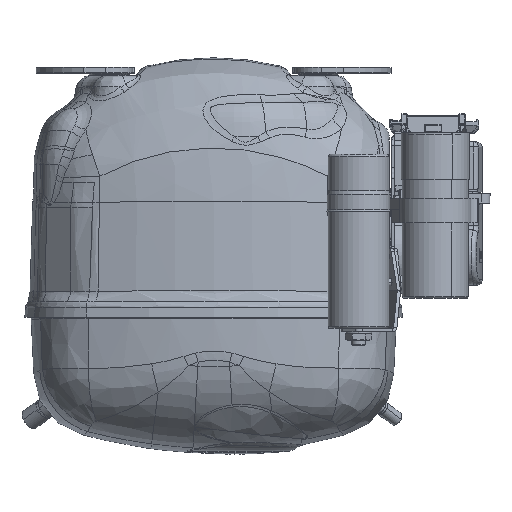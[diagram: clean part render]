
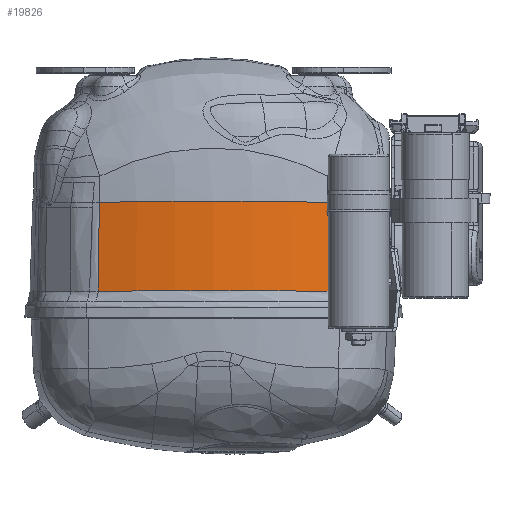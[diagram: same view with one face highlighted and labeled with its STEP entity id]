
A CAD part, top view. The second image highlights one B-rep face of the part: STEP entity #19826.
In plain terms, the highlighted toroidal (fillet/blend) face has major radius 577.563 mm and minor radius 225.485 mm.
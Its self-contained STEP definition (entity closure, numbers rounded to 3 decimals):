
#3159=CARTESIAN_POINT('',(66.98,-54.16,
-20.346));
#3160=CARTESIAN_POINT('',(70.282,-43.434,
-20.346));
#3161=CARTESIAN_POINT('',(75.283,-21.485,
-20.346));
#3162=CARTESIAN_POINT('',(76.963,0.964,
-20.347));
#3163=CARTESIAN_POINT('',(76.963,12.188,-20.347));
#3165=CARTESIAN_POINT('',(76.963,12.188,-20.347));
#3166=CARTESIAN_POINT('',(76.963,23.412,-20.347));
#3167=CARTESIAN_POINT('',(75.283,45.86,-20.346));
#3168=CARTESIAN_POINT('',(70.282,67.811,-20.346));
#3169=CARTESIAN_POINT('',(66.979,78.537,-20.345));
#3171=CARTESIAN_POINT('',(66.979,78.537,-20.345));
#3172=CARTESIAN_POINT('',(66.717,78.519,-37.343));
#3173=CARTESIAN_POINT('',(65.971,78.298,-54.329));
#3174=CARTESIAN_POINT('',(64.755,77.834,-71.259));
#3176=CARTESIAN_POINT('',(64.755,-53.458,
-71.259));
#3177=CARTESIAN_POINT('',(65.971,-53.922,
-54.329));
#3178=CARTESIAN_POINT('',(66.717,-54.143,
-37.343));
#3179=CARTESIAN_POINT('',(66.98,-54.16,
-20.346));
#6193=CARTESIAN_POINT('',(-150.275,12.188,-54.017));
#6194=DIRECTION('',(0.08,0.,0.997));
#6195=DIRECTION('',(0.954,-0.291,-0.076));
#6196=AXIS2_PLACEMENT_3D('',#6193,#6194,#6195);
#6198=CARTESIAN_POINT('',(-150.275,12.188,-54.017));
#6199=DIRECTION('',(0.08,0.,0.997));
#6200=DIRECTION('',(0.997,0.,-0.08));
#6201=AXIS2_PLACEMENT_3D('',#6198,#6199,#6200);
#11628=VERTEX_POINT('',#3159);
#11629=VERTEX_POINT('',#3163);
#11630=VERTEX_POINT('',#3169);
#11631=VERTEX_POINT('',#3174);
#11632=CARTESIAN_POINT('',(64.755,-53.458,
-71.259));
#11633=CARTESIAN_POINT('',(74.491,12.188,
-72.04));
#11634=VERTEX_POINT('',#11632);
#11635=VERTEX_POINT('',#11633);
#19809=CARTESIAN_POINT('',(-725.989,12.188,-7.853));
#19810=DIRECTION('',(0.,1.,0.));
#19811=DIRECTION('',(1.,0.,-0.005));
#19812=AXIS2_PLACEMENT_3D('',#19809,#19810,#19811);
#19813=TOROIDAL_SURFACE('',#19812,577.563,225.485);
#19814=ORIENTED_EDGE('',*,*,#19799,.T.);
#19815=ORIENTED_EDGE('',*,*,#19797,.T.);
#19817=ORIENTED_EDGE('',*,*,#19816,.T.);
#19819=ORIENTED_EDGE('',*,*,#19818,.F.);
#19821=ORIENTED_EDGE('',*,*,#19820,.F.);
#19823=ORIENTED_EDGE('',*,*,#19822,.T.);
#19824=EDGE_LOOP('',(#19814,#19815,#19817,#19819,#19821,#19823));
#19825=FACE_OUTER_BOUND('',#19824,.F.);
#19826=ADVANCED_FACE('',(#19825),#19813,.T.);
#3164=B_SPLINE_CURVE_WITH_KNOTS('',3,(#3159,#3160,#3161,#3162,#3163),
.UNSPECIFIED.,.F.,.F.,(4,1,4),(0.,0.5,1.),.UNSPECIFIED.);
#3170=B_SPLINE_CURVE_WITH_KNOTS('',3,(#3165,#3166,#3167,#3168,#3169),
.UNSPECIFIED.,.F.,.F.,(4,1,4),(0.,0.5,1.),.UNSPECIFIED.);
#3175=B_SPLINE_CURVE_WITH_KNOTS('',3,(#3171,#3172,#3173,#3174),.UNSPECIFIED.,
.F.,.F.,(4,4),(0.,1.),.UNSPECIFIED.);
#3180=B_SPLINE_CURVE_WITH_KNOTS('',3,(#3176,#3177,#3178,#3179),.UNSPECIFIED.,
.F.,.F.,(4,4),(0.,1.),.UNSPECIFIED.);
#6197=CIRCLE('',#6196,225.487);
#6202=CIRCLE('',#6201,225.487);
#19797=EDGE_CURVE('',#11629,#11630,#3170,.T.);
#19799=EDGE_CURVE('',#11628,#11629,#3164,.T.);
#19816=EDGE_CURVE('',#11630,#11631,#3175,.T.);
#19818=EDGE_CURVE('',#11635,#11631,#6202,.T.);
#19820=EDGE_CURVE('',#11634,#11635,#6197,.T.);
#19822=EDGE_CURVE('',#11634,#11628,#3180,.T.);
